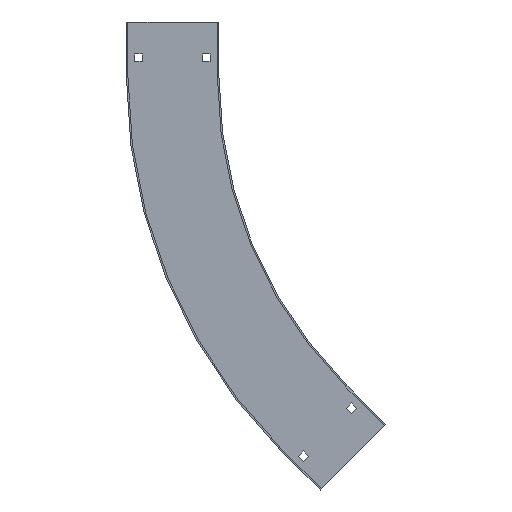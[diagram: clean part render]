
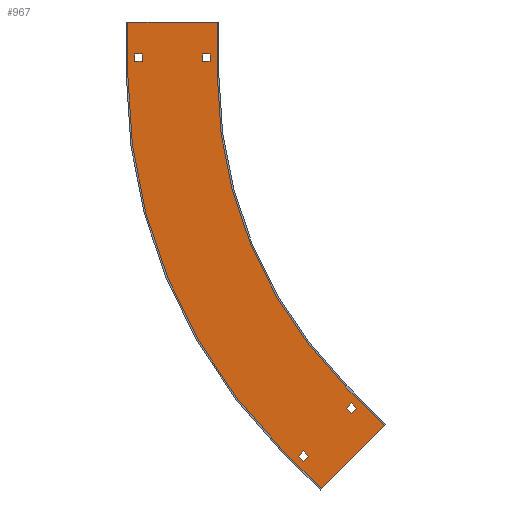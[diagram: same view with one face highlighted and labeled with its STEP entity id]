
A CAD part, left-side view. The second image highlights one B-rep face of the part: STEP entity #967.
In plain terms, the highlighted planar face has unit normal (-1, 0, 0) as drawn and (1, 0, 0) by its records, which use the part's own axes.
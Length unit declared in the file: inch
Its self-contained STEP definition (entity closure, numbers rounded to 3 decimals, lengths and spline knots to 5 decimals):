
#9=DIRECTION('',(0.,1.,0.));
#10=VECTOR('',#9,4.91);
#11=CARTESIAN_POINT('',(0.08,0.085,0.));
#12=LINE('',#11,#10);
#194=DIRECTION('',(0.,0.,1.));
#195=VECTOR('',#194,3.);
#196=CARTESIAN_POINT('',(0.08,4.995,0.));
#197=LINE('',#196,#195);
#198=DIRECTION('',(0.,0.,1.));
#199=VECTOR('',#198,3.);
#200=CARTESIAN_POINT('',(0.08,0.085,0.));
#201=LINE('',#200,#199);
#202=CARTESIAN_POINT('',(0.08,-24.,3.));
#203=DIRECTION('',(1.,0.,0.));
#204=DIRECTION('',(0.,1.,0.));
#205=AXIS2_PLACEMENT_3D('',#202,#203,#204);
#207=DIRECTION('',(0.,-0.707,0.707));
#208=VECTOR('',#207,3.);
#209=CARTESIAN_POINT('',(0.08,-6.96933,20.03067));
#210=LINE('',#209,#208);
#211=DIRECTION('',(0.,0.,1.));
#212=VECTOR('',#211,0.41);
#213=CARTESIAN_POINT('',(0.08,4.622,1.755));
#214=LINE('',#213,#212);
#215=DIRECTION('',(0.,-1.,0.));
#216=VECTOR('',#215,0.41);
#217=CARTESIAN_POINT('',(0.08,4.622,2.165));
#218=LINE('',#217,#216);
#219=DIRECTION('',(0.,0.,-1.));
#220=VECTOR('',#219,0.41);
#221=CARTESIAN_POINT('',(0.08,4.212,2.165));
#222=LINE('',#221,#220);
#223=DIRECTION('',(0.,1.,0.));
#224=VECTOR('',#223,0.41);
#225=CARTESIAN_POINT('',(0.08,4.212,1.755));
#226=LINE('',#225,#224);
#227=DIRECTION('',(0.,0.,1.));
#228=VECTOR('',#227,0.41);
#229=CARTESIAN_POINT('',(0.08,0.897,1.755));
#230=LINE('',#229,#228);
#231=DIRECTION('',(0.,-1.,0.));
#232=VECTOR('',#231,0.41);
#233=CARTESIAN_POINT('',(0.08,0.897,2.165));
#234=LINE('',#233,#232);
#235=DIRECTION('',(0.,0.,-1.));
#236=VECTOR('',#235,0.41);
#237=CARTESIAN_POINT('',(0.08,0.487,2.165));
#238=LINE('',#237,#236);
#239=DIRECTION('',(0.,1.,0.));
#240=VECTOR('',#239,0.41);
#241=CARTESIAN_POINT('',(0.08,0.487,1.755));
#242=LINE('',#241,#240);
#243=DIRECTION('',(0.,-0.707,-0.707));
#244=VECTOR('',#243,0.41);
#245=CARTESIAN_POINT('',(0.08,-4.64154,24.11916));
#246=LINE('',#245,#244);
#247=DIRECTION('',(0.,0.707,-0.707));
#248=VECTOR('',#247,0.41);
#249=CARTESIAN_POINT('',(0.08,-4.93145,23.82924));
#250=LINE('',#249,#248);
#251=DIRECTION('',(0.,0.707,0.707));
#252=VECTOR('',#251,0.41);
#253=CARTESIAN_POINT('',(0.08,-4.64154,23.53933));
#254=LINE('',#253,#252);
#255=DIRECTION('',(0.,-0.707,0.707));
#256=VECTOR('',#255,0.41);
#257=CARTESIAN_POINT('',(0.08,-4.35162,23.82924));
#258=LINE('',#257,#256);
#259=DIRECTION('',(0.,-0.707,-0.707));
#260=VECTOR('',#259,0.41);
#261=CARTESIAN_POINT('',(0.08,-7.27551,21.48519));
#262=LINE('',#261,#260);
#263=DIRECTION('',(0.,0.707,-0.707));
#264=VECTOR('',#263,0.41);
#265=CARTESIAN_POINT('',(0.08,-7.56542,21.19527));
#266=LINE('',#265,#264);
#267=DIRECTION('',(0.,0.707,0.707));
#268=VECTOR('',#267,0.41);
#269=CARTESIAN_POINT('',(0.08,-7.27551,20.90536));
#270=LINE('',#269,#268);
#271=DIRECTION('',(0.,-0.707,0.707));
#272=VECTOR('',#271,0.41);
#273=CARTESIAN_POINT('',(0.08,-6.9856,21.19527));
#274=LINE('',#273,#272);
#336=DIRECTION('',(0.,0.707,0.707));
#337=VECTOR('',#336,4.91);
#338=CARTESIAN_POINT('',(0.08,-9.09065,22.15199));
#339=LINE('',#338,#337);
#416=DIRECTION('',(0.,-0.707,0.707));
#417=VECTOR('',#416,3.);
#418=CARTESIAN_POINT('',(0.08,-3.49744,23.50256));
#419=LINE('',#418,#417);
#424=CARTESIAN_POINT('',(0.08,-24.,3.));
#425=DIRECTION('',(1.,0.,0.));
#426=DIRECTION('',(0.,1.,0.));
#427=AXIS2_PLACEMENT_3D('',#424,#425,#426);
#497=CARTESIAN_POINT('',(0.08,0.085,0.));
#498=VERTEX_POINT('',#497);
#499=CARTESIAN_POINT('',(0.08,4.995,0.));
#500=VERTEX_POINT('',#499);
#518=CARTESIAN_POINT('',(0.08,0.085,3.));
#520=VERTEX_POINT('',#518);
#521=CARTESIAN_POINT('',(0.08,4.995,3.));
#523=VERTEX_POINT('',#521);
#542=CARTESIAN_POINT('',(0.08,-6.96933,20.03067));
#544=VERTEX_POINT('',#542);
#545=CARTESIAN_POINT('',(0.08,-3.49744,23.50256));
#547=VERTEX_POINT('',#545);
#569=CARTESIAN_POINT('',(0.08,-9.09065,22.15199));
#570=VERTEX_POINT('',#569);
#571=CARTESIAN_POINT('',(0.08,-5.61876,25.62388));
#572=VERTEX_POINT('',#571);
#589=CARTESIAN_POINT('',(0.08,4.622,1.755));
#590=CARTESIAN_POINT('',(0.08,4.622,2.165));
#591=VERTEX_POINT('',#589);
#592=VERTEX_POINT('',#590);
#593=CARTESIAN_POINT('',(0.08,4.212,2.165));
#594=VERTEX_POINT('',#593);
#595=CARTESIAN_POINT('',(0.08,4.212,1.755));
#596=VERTEX_POINT('',#595);
#597=CARTESIAN_POINT('',(0.08,0.897,1.755));
#598=CARTESIAN_POINT('',(0.08,0.897,2.165));
#599=VERTEX_POINT('',#597);
#600=VERTEX_POINT('',#598);
#601=CARTESIAN_POINT('',(0.08,0.487,2.165));
#602=VERTEX_POINT('',#601);
#603=CARTESIAN_POINT('',(0.08,0.487,1.755));
#604=VERTEX_POINT('',#603);
#621=CARTESIAN_POINT('',(0.08,-4.64154,24.11916));
#622=CARTESIAN_POINT('',(0.08,-4.93145,23.82924));
#623=VERTEX_POINT('',#621);
#624=VERTEX_POINT('',#622);
#625=CARTESIAN_POINT('',(0.08,-4.64154,23.53933));
#626=VERTEX_POINT('',#625);
#627=CARTESIAN_POINT('',(0.08,-4.35162,23.82924));
#628=VERTEX_POINT('',#627);
#629=CARTESIAN_POINT('',(0.08,-7.27551,21.48519));
#630=CARTESIAN_POINT('',(0.08,-7.56542,21.19527));
#631=VERTEX_POINT('',#629);
#632=VERTEX_POINT('',#630);
#633=CARTESIAN_POINT('',(0.08,-7.27551,20.90536));
#634=VERTEX_POINT('',#633);
#635=CARTESIAN_POINT('',(0.08,-6.9856,21.19527));
#636=VERTEX_POINT('',#635);
#906=CARTESIAN_POINT('',(0.08,0.085,0.));
#907=DIRECTION('',(1.,0.,0.));
#908=DIRECTION('',(0.,1.,0.));
#909=AXIS2_PLACEMENT_3D('',#906,#907,#908);
#910=PLANE('',#909);
#911=ORIENTED_EDGE('',*,*,#662,.F.);
#913=ORIENTED_EDGE('',*,*,#912,.T.);
#915=ORIENTED_EDGE('',*,*,#914,.T.);
#917=ORIENTED_EDGE('',*,*,#916,.T.);
#919=ORIENTED_EDGE('',*,*,#918,.T.);
#921=ORIENTED_EDGE('',*,*,#920,.F.);
#923=ORIENTED_EDGE('',*,*,#922,.F.);
#924=ORIENTED_EDGE('',*,*,#898,.F.);
#925=EDGE_LOOP('',(#911,#913,#915,#917,#919,#921,#923,#924));
#926=FACE_OUTER_BOUND('',#925,.F.);
#928=ORIENTED_EDGE('',*,*,#927,.T.);
#930=ORIENTED_EDGE('',*,*,#929,.T.);
#932=ORIENTED_EDGE('',*,*,#931,.T.);
#934=ORIENTED_EDGE('',*,*,#933,.T.);
#935=EDGE_LOOP('',(#928,#930,#932,#934));
#936=FACE_BOUND('',#935,.F.);
#938=ORIENTED_EDGE('',*,*,#937,.T.);
#940=ORIENTED_EDGE('',*,*,#939,.T.);
#942=ORIENTED_EDGE('',*,*,#941,.T.);
#944=ORIENTED_EDGE('',*,*,#943,.T.);
#945=EDGE_LOOP('',(#938,#940,#942,#944));
#946=FACE_BOUND('',#945,.F.);
#948=ORIENTED_EDGE('',*,*,#947,.T.);
#950=ORIENTED_EDGE('',*,*,#949,.T.);
#952=ORIENTED_EDGE('',*,*,#951,.T.);
#954=ORIENTED_EDGE('',*,*,#953,.T.);
#955=EDGE_LOOP('',(#948,#950,#952,#954));
#956=FACE_BOUND('',#955,.F.);
#958=ORIENTED_EDGE('',*,*,#957,.T.);
#960=ORIENTED_EDGE('',*,*,#959,.T.);
#962=ORIENTED_EDGE('',*,*,#961,.T.);
#964=ORIENTED_EDGE('',*,*,#963,.T.);
#965=EDGE_LOOP('',(#958,#960,#962,#964));
#966=FACE_BOUND('',#965,.F.);
#967=ADVANCED_FACE('',(#926,#936,#946,#956,#966),#910,.T.);
#206=CIRCLE('',#205,24.085);
#428=CIRCLE('',#427,28.995);
#662=EDGE_CURVE('',#498,#500,#12,.T.);
#898=EDGE_CURVE('',#500,#523,#197,.T.);
#912=EDGE_CURVE('',#498,#520,#201,.T.);
#914=EDGE_CURVE('',#520,#544,#206,.T.);
#916=EDGE_CURVE('',#544,#570,#210,.T.);
#918=EDGE_CURVE('',#570,#572,#339,.T.);
#920=EDGE_CURVE('',#547,#572,#419,.T.);
#922=EDGE_CURVE('',#523,#547,#428,.T.);
#927=EDGE_CURVE('',#591,#592,#214,.T.);
#929=EDGE_CURVE('',#592,#594,#218,.T.);
#931=EDGE_CURVE('',#594,#596,#222,.T.);
#933=EDGE_CURVE('',#596,#591,#226,.T.);
#937=EDGE_CURVE('',#599,#600,#230,.T.);
#939=EDGE_CURVE('',#600,#602,#234,.T.);
#941=EDGE_CURVE('',#602,#604,#238,.T.);
#943=EDGE_CURVE('',#604,#599,#242,.T.);
#947=EDGE_CURVE('',#623,#624,#246,.T.);
#949=EDGE_CURVE('',#624,#626,#250,.T.);
#951=EDGE_CURVE('',#626,#628,#254,.T.);
#953=EDGE_CURVE('',#628,#623,#258,.T.);
#957=EDGE_CURVE('',#631,#632,#262,.T.);
#959=EDGE_CURVE('',#632,#634,#266,.T.);
#961=EDGE_CURVE('',#634,#636,#270,.T.);
#963=EDGE_CURVE('',#636,#631,#274,.T.);
